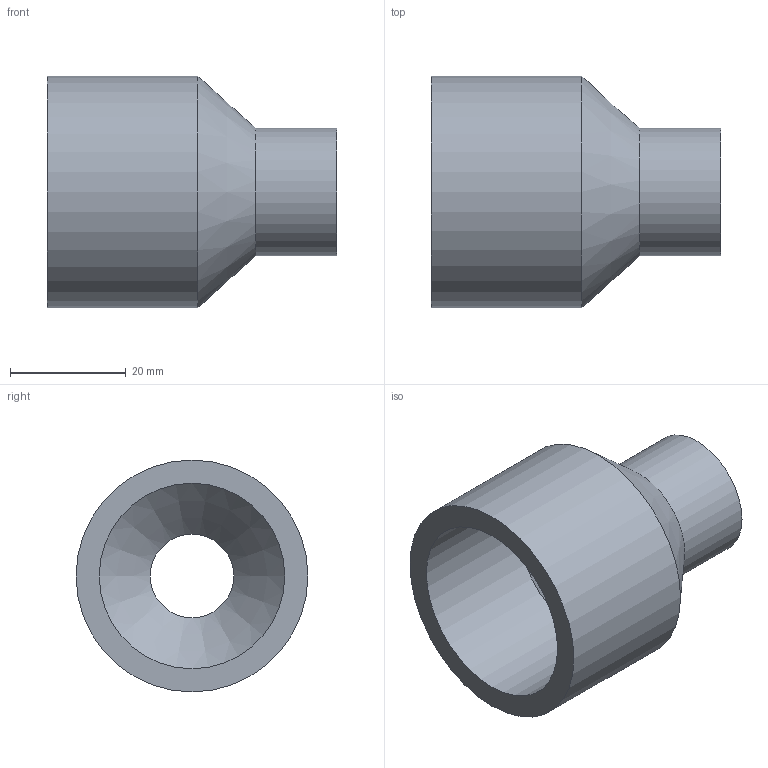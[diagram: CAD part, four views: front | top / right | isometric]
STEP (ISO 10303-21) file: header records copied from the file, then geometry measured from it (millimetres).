
FILE_DESCRIPTION(/* description */ ('PLASSON REDUCING SOCKET M.F.40(32)16 CEMENTED'),/* implementation_level */ '2;1');
FILE_NAME(/* name */ 'C:\Dropbox\KIMPROJECTS-Inventor\99-16-3568-Processing\PVC Catalog 2017\050200\050200040016.ipt.stp',/* time_stamp */ '2017-12-07T15:52:24+02:00',/* author */ ('KIM'),/* organization */ (''),/* preprocessor_version */ 'ST-DEVELOPER v15.6',/* originating_system */ 'Autodesk Inventor 2015',/* authorisation */ '');
FILE_SCHEMA (('AUTOMOTIVE_DESIGN { 1 0 10303 214 3 1 1 }'));
Length unit declared in the file: millimetre
Products named in the file (1): 050200040016
Bounding box: 50 x 40 x 40 mm (x, y, z)
Volume: 20500.5 mm3; surface area: 10272.5 mm2
Topology: 1 solids, 1 shells, 10 faces, 17 edges, 10 vertices
Faces by surface type: cylinder 5, plane 3, cone 2
Full cylindrical faces by diameter (mm): 14.4 x1, 16 x1, 22 x1, 32 x1, 40 x1
Entity records: 232 total; most frequent: DIRECTION 42, CARTESIAN_POINT 31, AXIS2_PLACEMENT_3D 21, EDGE_LOOP 20, ORIENTED_EDGE 20, FACE_BOUND 10, FACE_OUTER_BOUND 10, CIRCLE 10
